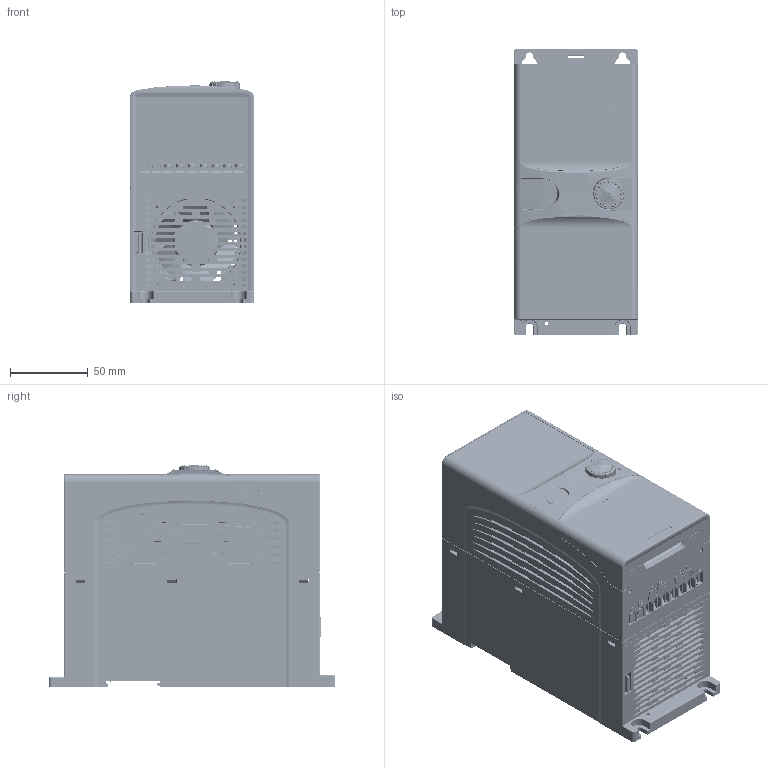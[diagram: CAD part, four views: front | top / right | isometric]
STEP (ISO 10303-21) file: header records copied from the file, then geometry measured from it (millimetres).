
FILE_DESCRIPTION((''),'2;1');
FILE_NAME('GD20-2R2G-4_ASM','2019-10-30T',('Administrator'),(''),'PRO/ENGINEER BY PARAMETRIC TECHNOLOGY CORPORATION, 2010280','PRO/ENGINEER BY PARAMETRIC TECHNOLOGY CORPORATION, 2010280','');
FILE_SCHEMA(('CONFIG_CONTROL_DESIGN'));
Products named in the file (101): 80740117; 80740109; 86400024; 86400025; 80740117SY; 40810069_ASM; 80740116; 80740115; 80740114; 80740111; 80780031; 80740115SY; 80810047; 40810071_ASM; DRIVE_PCB_1R5-01; 61005-00116; 70610219; EH2-S-0168-021; THERMOGRAPH-3; SCREW-SPRING-FLAT-M3X8; FAN_60; POWER-SUPPLY; 36001-00020-5P; 36001-00020-2P; TRANSFORMER; POWER-SUPPLY_ASM; BODY__AF1_1; YJ__AF1_1; YJ__AF0_1; YJ__AF3_1; YJ__AF2_1; YJ__AF5_1; YJ__AF4_1; TP762P-00_CONTACT3__AF6_1; TP762P-00_SCREW__AF0_1; TP762P-00_SCREW__AF1_ASM_1_ASM; TP762P-00_CONTACT3__AF7_1; TP762P-00_SCREW__AF2_1; TP762P-00_SCREW__AF3_ASM_1_ASM; TP762P-00_CONTACT3__AF8_1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
Assembly tree (120 placements, depth 8):
  GD20-2R2G-4_ASM
    40810071_ASM
      40810069_ASM
        80740117
        80740109
        86400024
        86400025
        80740117SY
      80740116
      80740115
      80740114
      80740111
      80780031
      80740115SY
      80810047
    DRIVE_PCB_1R5-01_ASM
      DRIVE_PCB_1R5-01
      61005-00116  x4
      70610219
      EH2-S-0168-021
      THERMOGRAPH-3
      SCREW-SPRING-FLAT-M3X8  x2
      FAN_60
      POWER-SUPPLY_ASM
        POWER-SUPPLY
        36001-00020-5P  x2
        36001-00020-2P
        TRANSFORMER
      TB762-11-9P-D1_ASM
        TB762-11-9P-D1_ASM_1_ASM
          5P_ASM_2_ASM
            BODY__AF1_1
            YJ__AF1_1
            YJ__AF0_1
            YJ__AF3_1
            YJ__AF2_1
            YJ__AF5_1
            YJ__AF4_1
            TP762P-00_SCREW__AF1_ASM_1_ASM
              TP762P-00_CONTACT3__AF6_1
              TP762P-00_SCREW__AF0_1
            TP762P-00_SCREW__AF3_ASM_1_ASM
              TP762P-00_CONTACT3__AF7_1
              TP762P-00_SCREW__AF2_1
            TP762P-00_SCREW__AF5_ASM_1_ASM
              TP762P-00_CONTACT3__AF8_1
              TP762P-00_SCREW__AF4_1
            TP762P-00_SCREW__AF7_ASM_1_ASM
              TP762P-00_CONTACT3__AF9_1
              TP762P-00_SCREW__AF6_1
            TP762P-00_SCREW__AF9_ASM_1_ASM
              TP762P-00_CONTACT3__AF10_1
              TP762P-00_SCREW__AF8_1
            TP762P-00_SCREW__AF11_ASM_1_ASM
              TP762P-00_CONTACT3__AF11_1
              TP762P-00_SCREW__AF10_1
          4P_ASM_1_ASM
            TB762-11-D1-T4_ASM_16_ASM_2_ASM
              BODY_AF1_24_1
              YJ_AF6_14_1
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Bounding box: 80 x 185 x 143.54 mm (x, y, z)
Volume: 560732.5 mm3; surface area: 463444.6 mm2
Topology: 100 solids, 101 shells, 10982 faces, 30437 edges, 19800 vertices
Faces by surface type: plane 6561, cylinder 2413, extrusion 724, bspline 646, torus 360, cone 188, sphere 70, revolution 20
Entity records: 438973 total; most frequent: CARTESIAN_POINT 176428, ORIENTED_EDGE 58076, DIRECTION 48185, EDGE_CURVE 29038, VECTOR 19719, VERTEX_POINT 19001, LINE 18995, AXIS2_PLACEMENT_3D 14223
